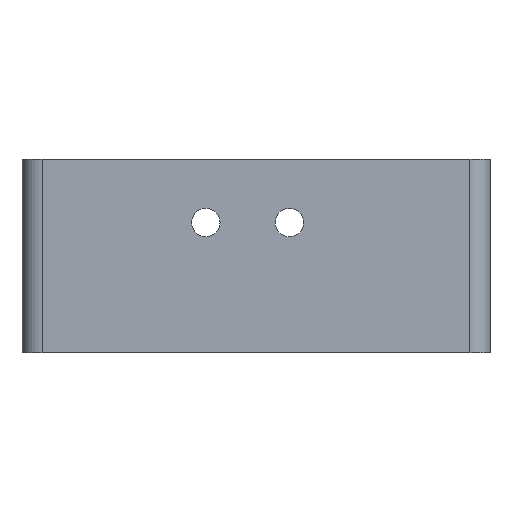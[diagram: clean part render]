
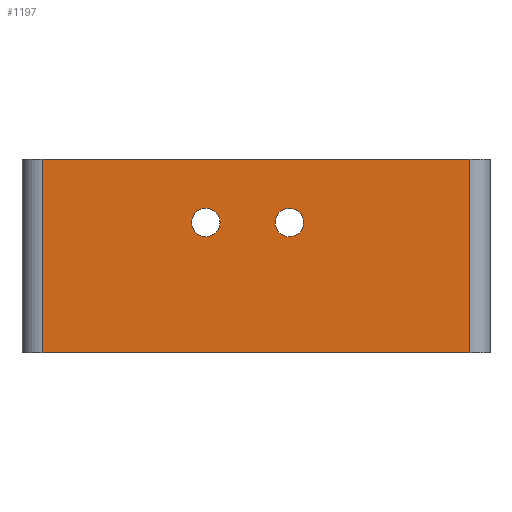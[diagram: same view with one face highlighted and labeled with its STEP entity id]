
A CAD part, front view. The second image highlights one B-rep face of the part: STEP entity #1197.
In plain terms, the highlighted planar face has unit normal (0, -1, 0).
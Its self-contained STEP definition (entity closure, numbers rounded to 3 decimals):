
#37=FACE_BOUND('',#184,.T.);
#38=FACE_BOUND('',#185,.T.);
#55=PLANE('',#1355);
#104=FACE_OUTER_BOUND('',#183,.T.);
#183=EDGE_LOOP('',(#1046,#1047,#1048,#1049));
#184=EDGE_LOOP('',(#1050,#1051));
#185=EDGE_LOOP('',(#1052,#1053));
#231=LINE('',#1904,#326);
#264=LINE('',#2012,#359);
#285=LINE('',#2074,#380);
#286=LINE('',#2076,#381);
#326=VECTOR('',#1519,10.);
#359=VECTOR('',#1628,10.);
#380=VECTOR('',#1701,10.);
#381=VECTOR('',#1704,10.);
#391=CIRCLE('',#1234,4.25);
#392=CIRCLE('',#1235,4.25);
#394=CIRCLE('',#1238,4.25);
#395=CIRCLE('',#1239,4.25);
#472=VERTEX_POINT('',#1746);
#473=VERTEX_POINT('',#1747);
#475=VERTEX_POINT('',#1754);
#476=VERTEX_POINT('',#1755);
#541=VERTEX_POINT('',#1901);
#542=VERTEX_POINT('',#1903);
#578=VERTEX_POINT('',#2009);
#579=VERTEX_POINT('',#2011);
#595=EDGE_CURVE('',#472,#473,#391,.T.);
#596=EDGE_CURVE('',#473,#472,#392,.T.);
#599=EDGE_CURVE('',#475,#476,#394,.T.);
#600=EDGE_CURVE('',#476,#475,#395,.T.);
#672=EDGE_CURVE('',#542,#541,#231,.T.);
#727=EDGE_CURVE('',#578,#579,#264,.T.);
#760=EDGE_CURVE('',#542,#578,#285,.T.);
#761=EDGE_CURVE('',#579,#541,#286,.T.);
#1046=ORIENTED_EDGE('',*,*,#760,.F.);
#1047=ORIENTED_EDGE('',*,*,#672,.T.);
#1048=ORIENTED_EDGE('',*,*,#761,.F.);
#1049=ORIENTED_EDGE('',*,*,#727,.F.);
#1050=ORIENTED_EDGE('',*,*,#595,.T.);
#1051=ORIENTED_EDGE('',*,*,#596,.T.);
#1052=ORIENTED_EDGE('',*,*,#599,.T.);
#1053=ORIENTED_EDGE('',*,*,#600,.T.);
#1197=ADVANCED_FACE('',(#104,#37,#38),#55,.T.);
#1234=AXIS2_PLACEMENT_3D('',#1748,#1375,#1376);
#1235=AXIS2_PLACEMENT_3D('',#1749,#1377,#1378);
#1238=AXIS2_PLACEMENT_3D('',#1756,#1384,#1385);
#1239=AXIS2_PLACEMENT_3D('',#1757,#1386,#1387);
#1355=AXIS2_PLACEMENT_3D('',#2075,#1702,#1703);
#1375=DIRECTION('center_axis',(0.,1.,0.));
#1376=DIRECTION('ref_axis',(1.,0.,0.));
#1377=DIRECTION('center_axis',(0.,1.,0.));
#1378=DIRECTION('ref_axis',(1.,0.,0.));
#1384=DIRECTION('center_axis',(0.,1.,0.));
#1385=DIRECTION('ref_axis',(1.,0.,0.));
#1386=DIRECTION('center_axis',(0.,1.,0.));
#1387=DIRECTION('ref_axis',(1.,0.,0.));
#1519=DIRECTION('',(1.,0.,0.));
#1628=DIRECTION('',(1.,0.,0.));
#1701=DIRECTION('',(0.,0.,1.));
#1702=DIRECTION('center_axis',(0.,-1.,0.));
#1703=DIRECTION('ref_axis',(1.,0.,0.));
#1704=DIRECTION('',(0.,0.,-1.));
#1746=CARTESIAN_POINT('',(59.25,0.,39.));
#1747=CARTESIAN_POINT('',(50.75,0.,39.));
#1748=CARTESIAN_POINT('Origin',(55.,0.,39.));
#1749=CARTESIAN_POINT('Origin',(55.,0.,39.));
#1754=CARTESIAN_POINT('',(84.25,0.,39.));
#1755=CARTESIAN_POINT('',(75.75,0.,39.));
#1756=CARTESIAN_POINT('Origin',(80.,0.,39.));
#1757=CARTESIAN_POINT('Origin',(80.,0.,39.));
#1901=CARTESIAN_POINT('',(134.,0.,0.));
#1903=CARTESIAN_POINT('',(6.,0.,0.));
#1904=CARTESIAN_POINT('',(0.,0.,0.));
#2009=CARTESIAN_POINT('',(6.,0.,58.));
#2011=CARTESIAN_POINT('',(134.,0.,58.));
#2012=CARTESIAN_POINT('',(0.,0.,58.));
#2074=CARTESIAN_POINT('',(6.,0.,0.));
#2075=CARTESIAN_POINT('Origin',(0.,0.,0.));
#2076=CARTESIAN_POINT('',(134.,0.,0.));
